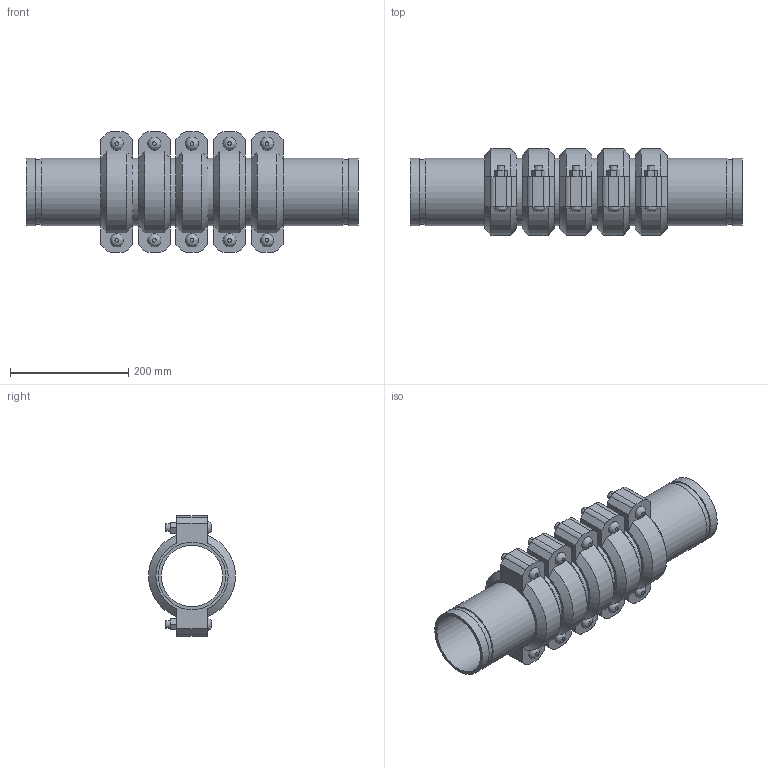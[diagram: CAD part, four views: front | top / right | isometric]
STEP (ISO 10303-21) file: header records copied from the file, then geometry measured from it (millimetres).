
FILE_DESCRIPTION(/* description */ ('VIC SS EXPANSION JOINT 5 COUPLINGS NEUTRAL STYLE 155P (OGS) (POTABLE WATER) ','CAx-IF Rec.Pracs.---Representation and Presentation of Product Manufacturing Information (PMI)---4.0---2014-10-13'),/* implementation_level */ '2;1');
FILE_NAME(/* name */ 'C:\Users\kkamble\AppData\Roaming\Autodesk\ApplicationPlugins\Victaulic.Temp\A327\Victaulic_SS_Expansion Joint_Neutral_5 Couplings_Style 155P (OGS)-Potable Water_5 Coup_Neut_4 (100).stp',/* time_stamp */ '2021-07-16T16:34:50+05:00',/* author */ ('kkamble'),/* organization */ ('Victaulic'),/* preprocessor_version */ 'ST-DEVELOPER v17.2',/* originating_system */ 'Autodesk Inventor 2019',/* authorisation */ '');
FILE_SCHEMA (('AP242_MANAGED_MODEL_BASED_3D_ENGINEERING_MIM_LF { 1 0 10303 442 1 1 4 }'));
Length unit declared in the file: inch
Products named in the file (4): 155P-04.0; Nipple-04.0; Nipple-04.0_1; 075-04.0
Assembly tree (11 placements, depth 2):
  155P-04.0
    Nipple-04.0  x2
    Nipple-04.0_1  x4
    075-04.0  x5
Bounding box: 561.85 x 147.32 x 203.96 mm (x, y, z)
Volume: 3298336.4 mm3; surface area: 802254.8 mm2
Topology: 11 solids, 21 shells, 357 faces, 845 edges, 594 vertices
Faces by surface type: plane 216, cylinder 111, cone 20, bspline 10
Full cylindrical faces by diameter (mm): 12.7 x20, 14.605 x10, 103.988 x6, 107.95 x5, 110.084 x12, 114.3 x28
Entity records: 2801 total; most frequent: CARTESIAN_POINT 495, DIRECTION 465, ORIENTED_EDGE 386, EDGE_CURVE 193, AXIS2_PLACEMENT_3D 186, VERTEX_POINT 138, EDGE_LOOP 107, LINE 93
